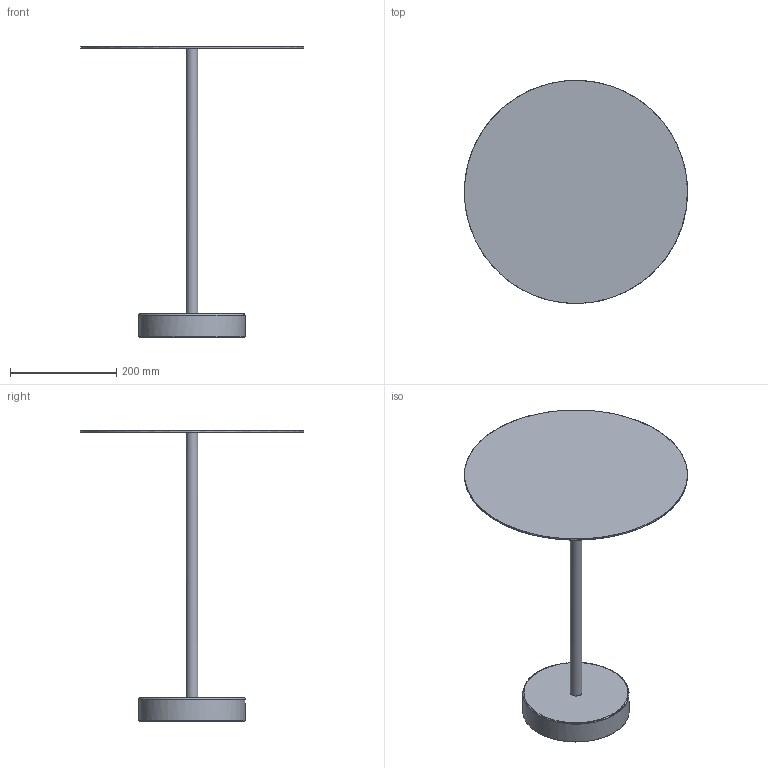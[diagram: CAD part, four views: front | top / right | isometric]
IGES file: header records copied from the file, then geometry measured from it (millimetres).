
Global section: file name: /Users/matteo_studiocdb02/Desktop/Danese 3/SPACE 3d (2)/Bincan table system/Bincan tavolino S/Bincan table S 3D.igs; native system: Rhinoceros ( Dec 18 2012 ); preprocessor: Trout Lake IGES 012 Dec 18 2012; date: 130107.160857; units: millimetre
Bounding box: 419.79 x 419.81 x 547 mm (x, y, z)
Surface area: 492497.8 mm2 (no closed solid volume)
Topology: 0 solids, 0 shells, 20 faces, 870 edges, 854 vertices
Faces by surface type: bspline 20
